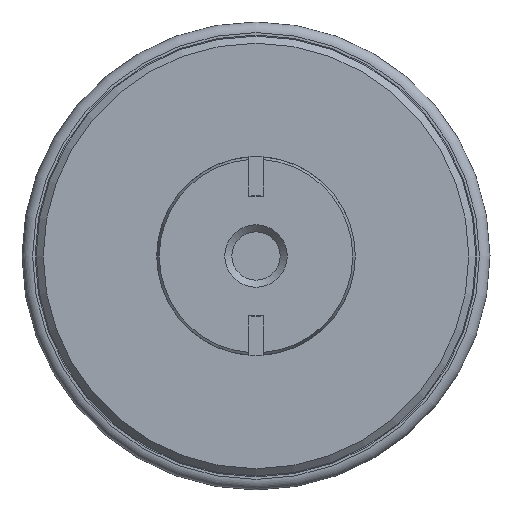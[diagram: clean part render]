
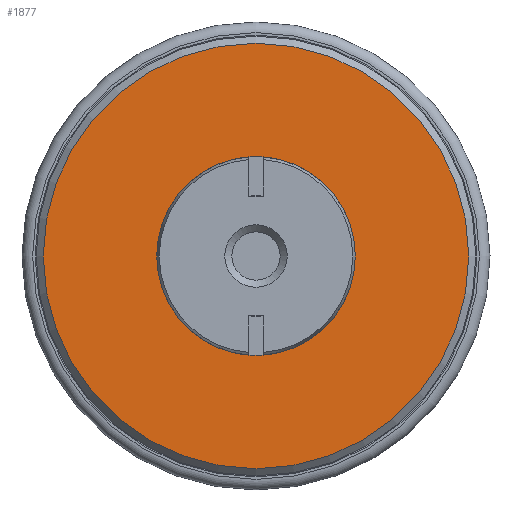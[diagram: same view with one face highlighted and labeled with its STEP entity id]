
A CAD part, left-side view. The second image highlights one B-rep face of the part: STEP entity #1877.
In plain terms, the highlighted planar face has unit normal (-1, 0, 0).
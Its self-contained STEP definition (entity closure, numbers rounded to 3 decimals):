
#90=PLANE('',#2104);
#210=CIRCLE('',#2103,30.);
#211=CIRCLE('',#2105,14.);
#585=ORIENTED_EDGE('',*,*,#892,.T.);
#586=ORIENTED_EDGE('',*,*,#893,.T.);
#892=EDGE_CURVE('',#1081,#1081,#210,.T.);
#893=EDGE_CURVE('',#1082,#1082,#211,.T.);
#1081=VERTEX_POINT('',#3472);
#1082=VERTEX_POINT('',#3475);
#1472=EDGE_LOOP('',(#585));
#1473=EDGE_LOOP('',(#586));
#1685=FACE_BOUND('',#1472,.T.);
#1686=FACE_BOUND('',#1473,.T.);
#1877=ADVANCED_FACE('',(#1685,#1686),#90,.T.);
#2103=AXIS2_PLACEMENT_3D('',#3471,#2603,#2604);
#2104=AXIS2_PLACEMENT_3D('',#3473,#2605,#2606);
#2105=AXIS2_PLACEMENT_3D('',#3474,#2607,#2608);
#2603=DIRECTION('',(-1.,0.,0.));
#2604=DIRECTION('',(0.,0.,-1.));
#2605=DIRECTION('',(-1.,0.,0.));
#2606=DIRECTION('',(0.,0.,-1.));
#2607=DIRECTION('',(1.,0.,0.));
#2608=DIRECTION('',(0.,0.,1.));
#3471=CARTESIAN_POINT('',(-25.001,0.,0.));
#3472=CARTESIAN_POINT('',(-25.001,0.,-30.));
#3473=CARTESIAN_POINT('',(-25.001,0.,31.));
#3474=CARTESIAN_POINT('',(-25.001,0.,0.));
#3475=CARTESIAN_POINT('',(-25.001,0.,14.));
